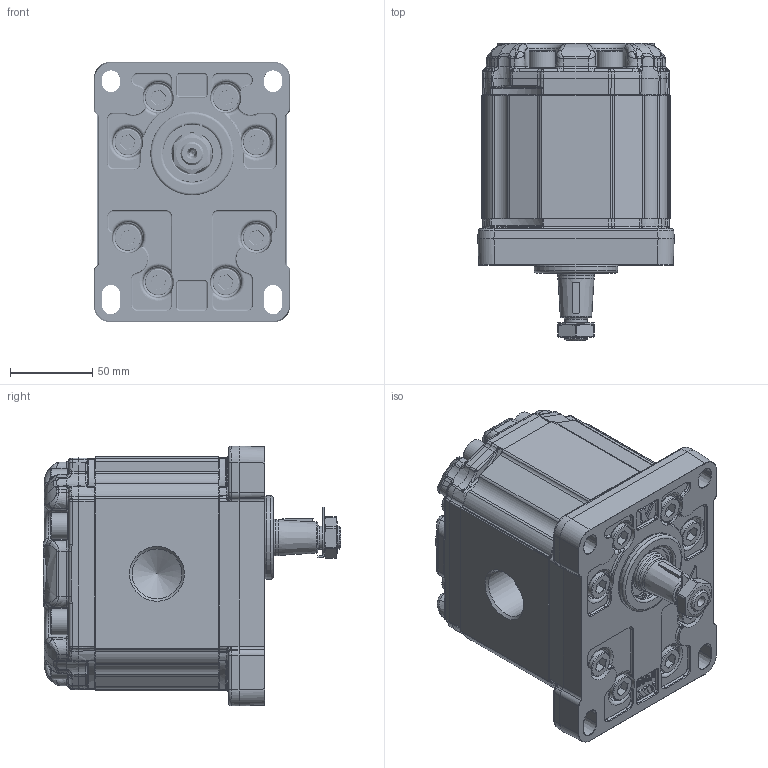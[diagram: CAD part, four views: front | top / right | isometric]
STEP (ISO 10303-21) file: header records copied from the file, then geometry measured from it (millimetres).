
FILE_DESCRIPTION(/* description */ ('Unknown'),/* implementation_level */ '2;1');
FILE_NAME(/* name */ 'X3M7201AEEE',/* time_stamp */ '2026-06-04T19:46:42+02:00',/* author */ ('Unknown'),/* organization */ ('Unknown'),/* preprocessor_version */ 'ST-DEVELOPER v16.7',/* originating_system */ 'Solid Edge',/* authorisation */ 'Unknown');
FILE_SCHEMA (('AUTOMOTIVE_DESIGN {1 0 10303 214 3 1 1}'));
Products named in the file (5): X3M7201AEEE; X3M01; 3A; X3EEH75; XM301-E
Assembly tree (4 placements, depth 2):
  X3M7201AEEE
    X3M01
    3A
    X3EEH75
    XM301-E
Bounding box: 119.2 x 180.5 x 157.8 mm (x, y, z)
Volume: 1917053 mm3; surface area: 215493.9 mm2
Topology: 4 solids, 5 shells, 3976 faces, 12430 edges, 7752 vertices
Faces by surface type: cylinder 1689, plane 1233, bspline 699, torus 205, cone 137, sphere 13
Full cylindrical faces by diameter (mm): 2 x2, 10 x16, 10.35 x30, 10.5 x1, 14 x2, 15.25 x1, 15.8 x16, 16 x16, 22 x1, 24.98 x1, 25.5 x1, 26.8 x1, 29.425 x1, 30.291 x2, 30.687 x1, 31 x1, 33.304 x1, 34.7 x1, 35 x2, 35.2 x1, 37 x1, 50.8 x1
Entity records: 282646 total; most frequent: CARTESIAN_POINT 152875, ORIENTED_EDGE 23924, DIRECTION 18595, EDGE_CURVE 11962, VERTEX_POINT 7611, AXIS2_PLACEMENT_3D 7194, FACE_BOUND 4409, EDGE_LOOP 4406
